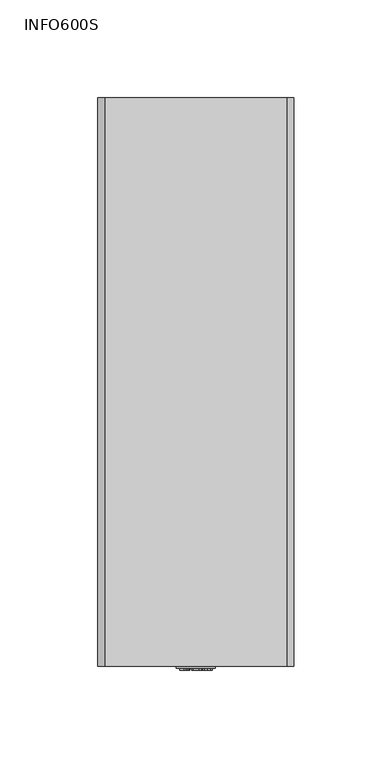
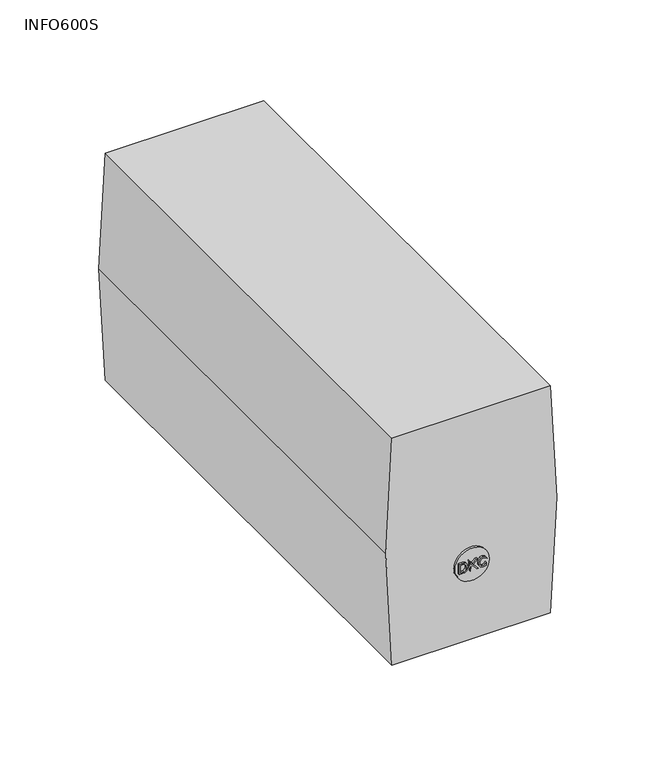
"""IFC4 building model written with IfcOpenShell, lengths in millimetres: proxy geometry, НВО_КНС_ИБПInfo_DKC : INFO600S."""

from ifc_helpers import new_model, si_unit, point, frame, frame_2d, origin, place, context, project, spatial, polyline, circle_curve, trimmed, segment, composite_curve, outline, extrude, source, transform, mapped, element, save


def info600s_33f5c08e(model_context):
    return source(origin(), model_context, "Body", "SweptSolid", [
        extrude(outline(polyline([(43.6666667, -8.1463789), (43.6666667, -5.967046), (43.7696736, -4.9980448), (44.6187453, -3.7273804), (45.4965117, -3.3153525), (46.7127296, -3.154956), (48.1459978, -3.391872), (49.1760674, -4.1055631), (49.6072251, -4.9914229), (49.6940453, -6.0671099), (49.6940453, -8.1463789), (43.6666667, -8.1463789)]), holes=[polyline([(44.420089, -7.3929566), (48.9406229, -7.3929566), (48.9406229, -6.0803536), (48.8199577, -5.0120243), (48.151884, -4.2299072), (46.7245018, -3.9083783), (45.5848034, -4.0724537), (44.5289821, -5.0900153), (44.420089, -6.0597522), (44.420089, -7.3929566)])]), frame((0.0, -2.0, 0.0), z_axis=(0.0, 1.0, 0.0), x_axis=(0.0, 0.0, 1.0)), (0.0, 0.0, 1.0), 6.0),
        extrude(outline(polyline([(43.6666667, -1.7422891), (45.7385781, -1.365578), (46.7068435, -0.3502237), (43.6666667, 1.9512461), (43.6666667, 2.8724226), (47.2159922, 0.183941), (49.6940453, 2.7782448), (49.6940453, 1.7246308), (46.7436317, -1.365578), (49.6940453, -2.1190003), (43.6666667, -1.7422891)])), frame((0.0, -2.0, 0.0), z_axis=(0.0, 1.0, 0.0), x_axis=(0.0, 0.0, 1.0)), (0.0, 0.0, 1.0), 6.0),
        extrude(outline(polyline([(45.8092114, 7.6754899), (44.6996793, 7.036111), (44.3259112, 5.8831689), (44.6003512, 4.8435343), (45.4295572, 4.1357294), (46.7274449, 3.9083783), (47.8472777, 4.1004127), (48.7125361, 4.7662791), (49.0348007, 5.944973), (48.744174, 6.9632704), (47.9973735, 8.3347345), (49.3188056, 7.4834555), (49.7882231, 5.9744036), (49.4254914, 4.5264201), (48.363784, 3.5118015), (46.7259733, 3.154956), (45.1146502, 3.4705987), (43.9683299, 4.3903037), (43.5724889, 5.9582168), (44.0956171, 7.5356948), (45.8092114, 7.6754899)])), frame((0.0, -2.0, 0.0), z_axis=(0.0, 1.0, 0.0), x_axis=(0.0, 0.0, 1.0)), (0.0, 0.0, 1.0), 6.0),
        extrude(outline(composite_curve([segment(trimmed(circle_curve(frame_2d((46.6666667, 0.0)), 10.0), [point((46.6666667, -10.0))], [point((46.6666667, 10.0))], False, "CARTESIAN"), True, "CONTINUOUS"), segment(trimmed(circle_curve(frame_2d((46.6666667, 0.0)), 10.0), [point((46.6666667, 10.0))], [point((46.6666667, -10.0))], False, "CARTESIAN"), True, "CONTINUOUS")], self_intersect=False)), frame((0.0, -1.0, 0.0), z_axis=(0.0, 1.0, 0.0), x_axis=(0.0, 0.0, 1.0)), (0.0, 0.0, 1.0), 10.0),
        extrude(outline(polyline([(0.0, -46.2634777), (0.0, 46.2634777), (70.0, 50.0), (140.0, 46.2634777), (140.0, -46.2634777), (70.0, -50.0), (0.0, -46.2634777)])), frame((0.0, 0.0, 0.0), z_axis=(0.0, 1.0, 0.0), x_axis=(0.0, 0.0, 1.0)), (0.0, 0.0, 1.0), 290.0),
    ])


if __name__ == "__main__":
    model = new_model("IFC4")
    model_context = context("Model", 3, world=origin())
    ifc_project = project(units=[si_unit("LENGTHUNIT", "METRE", prefix="MILLI")], contexts=[model_context])
    site = spatial("IfcSite", under=ifc_project)
    building = spatial("IfcBuilding", under=site)
    placement = place(None, origin())
    info600s_shape = info600s_33f5c08e(model_context)
    element("IfcBuildingElementProxy", 1, Name="НВО_КНС_ИБПInfo_DKC : INFO600S", ObjectType="НВО_КНС_ИБПInfo_DKC : INFO600S", at=placement, inside=building, context=model_context, shape_type="MappedRepresentation", body=[
        mapped(info600s_shape, transform((0.0, 0.0, 0.0), x_axis=(1.0, 0.0, 0.0), y_axis=(0.0, 1.0, 0.0), z_axis=(0.0, 0.0, 1.0))),
    ])
    save(model, "model.ifc")
